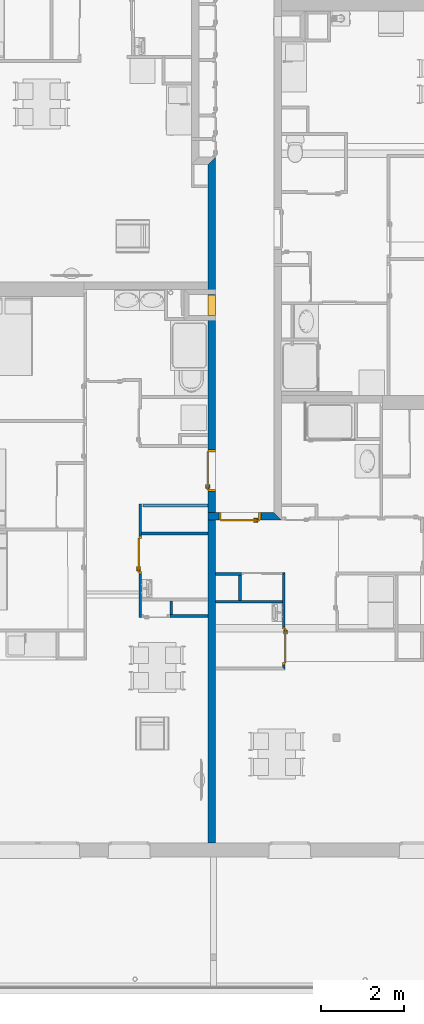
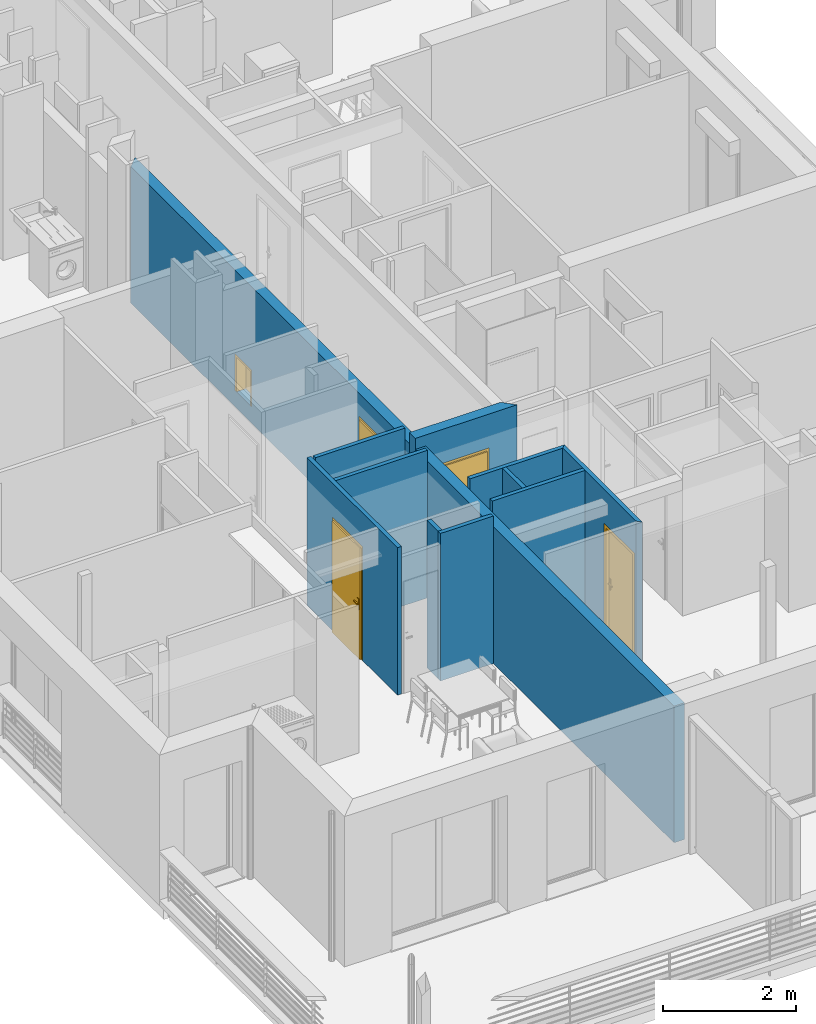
# One storey, part 31 of 171: 11 walls, 5 doors, 7 openings.
"""IFC2X3 building model written with IfcOpenShell, lengths in millimetres."""

import ifcopenshell
import ifcopenshell.guid

model = None  # the IFC model being written
_history = None  # IfcOwnerHistory: only IFC2X3 demands one
_inside = {}  # id of a spatial element -> (the spatial element, [elements in it])
_under = {}  # id of a project, library or spatial element -> (it, [spatial elements below it])
_declared = {}  # id of a project -> (the project, [libraries it declares])
_typed = {}  # id of a type object -> (the type object, [elements of that type])
_made_of = {}  # id of a material, layer set ... -> (it, [elements and type objects made of it])


def new_model(schema):
    """Start an empty IFC model of exactly this schema.

    Asked for "IFC4X3", IfcOpenShell would pick the latest addendum, in which some entities
    have other attributes; the version numbers below select the first issue.
    IFC2X3 requires an IfcOwnerHistory on every rooted entity: one is made here for all.
    """
    global model, _history
    if schema == "IFC4X3":
        model = ifcopenshell.file(schema_version=(4, 3, 0, 0))
    else:
        model = ifcopenshell.file(schema=schema)
    _inside.clear()
    _under.clear()
    _declared.clear()
    _typed.clear()
    _made_of.clear()
    _history = None
    if model.schema == "IFC2X3":
        org = make("IfcOrganization", Name="unknown")
        user = make(
            "IfcPersonAndOrganization",
            ThePerson=make("IfcPerson", FamilyName="unknown"),
            TheOrganization=org,
        )
        app = make(
            "IfcApplication",
            ApplicationDeveloper=org,
            Version="unknown",
            ApplicationFullName="unknown",
            ApplicationIdentifier="unknown",
        )
        _history = make(
            "IfcOwnerHistory",
            OwningUser=user,
            OwningApplication=app,
            ChangeAction="ADDED",
            CreationDate=0,
        )
    return model


def make(cls, **values):
    """One entity of the class cls with the attributes given. An attribute that is None is left unset."""
    return model.create_entity(
        cls, **{name: value for name, value in values.items() if value is not None}
    )


def entity(cls, *values):
    """Any entity or typed value of the class cls, its attributes in the order of the schema. None: left unset."""
    e = model.create_entity(cls)
    for i, value in enumerate(values):
        if value is not None:
            e[i] = value
    return e


def rooted(cls, **values):
    """An entity with a GlobalId (a new one), such as an element, a storey or a relation."""
    return make(cls, GlobalId=ifcopenshell.guid.new(), OwnerHistory=_history, **values)


def si_unit(unit_type, name, prefix=None):
    """IfcSIUnit, for example si_unit("LENGTHUNIT", "METRE", prefix="MILLI")."""
    return make("IfcSIUnit", UnitType=unit_type, Prefix=prefix, Name=name)


def converted_unit(unit_type, name, factor, base, dimensions=None, offset=None):
    """IfcConversionBasedUnit, such as the inch: factor (a typed value) times the base unit."""
    return make(
        "IfcConversionBasedUnit"
        if offset is None
        else "IfcConversionBasedUnitWithOffset",
        ConversionOffset=offset,
        Dimensions=None
        if dimensions is None
        else entity("IfcDimensionalExponents", *dimensions),
        UnitType=unit_type,
        Name=name,
        ConversionFactor=make(
            "IfcMeasureWithUnit", ValueComponent=factor, UnitComponent=base
        ),
    )


def derived_unit(unit_type, elements):
    """IfcDerivedUnit: a product of units, each with its exponent."""
    return make(
        "IfcDerivedUnit",
        Elements=[
            make("IfcDerivedUnitElement", Unit=unit, Exponent=power)
            for unit, power in elements
        ],
        UnitType=unit_type,
    )


def money_unit(currency):
    """IfcMonetaryUnit."""
    return make("IfcMonetaryUnit", Currency=currency)


def assignment(units):
    """IfcUnitAssignment: the units of a project."""
    return None if units is None else make("IfcUnitAssignment", Units=units)


def point(xyz):
    """IfcCartesianPoint."""
    return None if xyz is None else make("IfcCartesianPoint", Coordinates=xyz)


def direction(xyz):
    """IfcDirection."""
    return None if xyz is None else make("IfcDirection", DirectionRatios=xyz)


def frame(location, z_axis=None, x_axis=None):
    """IfcAxis2Placement3D, a coordinate frame: its origin and axes. An axis left out is left unset."""
    return make(
        "IfcAxis2Placement3D",
        Location=point(location),
        Axis=direction(z_axis),
        RefDirection=direction(x_axis),
    )


def frame_2d(location, x_axis=None):
    """IfcAxis2Placement2D, a coordinate frame in the plane: its origin and x axis."""
    return make(
        "IfcAxis2Placement2D", Location=point(location), RefDirection=direction(x_axis)
    )


def origin_with_axes():
    """The frame at (0, 0, 0) with the z axis (0, 0, 1) and the x axis (1, 0, 0) written out."""
    return frame((0.0, 0.0, 0.0), z_axis=(0.0, 0.0, 1.0), x_axis=(1.0, 0.0, 0.0))


def origin_2d_with_axis():
    """The frame at (0, 0) in the plane with the x axis (1, 0) written out."""
    return frame_2d((0.0, 0.0), x_axis=(1.0, 0.0))


def place(relative_to, where):
    """IfcLocalPlacement: puts the frame where relative to a parent placement (None: the world)."""
    return make(
        "IfcLocalPlacement", PlacementRelTo=relative_to, RelativePlacement=where
    )


def context(
    kind, dimensions, precision=None, world=None, true_north=None, identifier=None
):
    """IfcGeometricRepresentationContext, for example the 3D "Model" context."""
    return make(
        "IfcGeometricRepresentationContext",
        ContextIdentifier=identifier,
        ContextType=kind,
        CoordinateSpaceDimension=dimensions,
        Precision=precision,
        WorldCoordinateSystem=world,
        TrueNorth=true_north,
    )


def subcontext(parent, identifier, kind, view, scale=None):
    """IfcGeometricRepresentationSubContext, for example "Body" below "Model"."""
    return make(
        "IfcGeometricRepresentationSubContext",
        ContextIdentifier=identifier,
        ContextType=kind,
        ParentContext=parent,
        TargetScale=scale,
        TargetView=view,
    )


def project(units=None, contexts=None):
    """IfcProject with its units and contexts."""
    return rooted(
        "IfcProject",
        Name="project",
        RepresentationContexts=contexts,
        UnitsInContext=assignment(units),
    )


def spatial(cls, under=None, at=None, **own):
    """A site, building, storey or space (cls), placed at a placement, below another one or the project."""
    s = rooted(cls, ObjectPlacement=at, **own)
    if under is not None:
        _under.setdefault(under.id(), (under, []))[1].append(s)
    return s


def polyline(points):
    """IfcPolyline through the points."""
    return make("IfcPolyline", Points=[point(p) for p in points])


def profile(cls, at=None, kind="AREA", **sizes):
    """A parametric profile (cls). Its sizes go by their IFC names, for example OverallWidth=200.0."""
    return make(cls, ProfileType=kind, Position=at, **sizes)


def rectangle(**sizes):
    """IfcRectangleProfileDef."""
    return profile("IfcRectangleProfileDef", **sizes)


def outline(outer, holes=None, kind="AREA"):
    """IfcArbitraryClosedProfileDef: a profile drawn as a closed curve; with holes, ...WithVoids."""
    if holes is None:
        return make("IfcArbitraryClosedProfileDef", ProfileType=kind, OuterCurve=outer)
    return make(
        "IfcArbitraryProfileDefWithVoids",
        ProfileType=kind,
        OuterCurve=outer,
        InnerCurves=holes,
    )


def extrude(swept, where, along, depth):
    """IfcExtrudedAreaSolid: the profile swept, set in the frame where, extruded along a direction by depth."""
    return make(
        "IfcExtrudedAreaSolid",
        SweptArea=swept,
        Position=where,
        ExtrudedDirection=direction(along),
        Depth=depth,
    )


def faces_of(points, faces, orient=None, outer=None):
    """IfcFace entities. A face is a list of loops; a loop is a list of indices into points, from 0.

    orient and outer hold one flag for each loop. By default every Orientation is true, the
    first loop of a face is its IfcFaceOuterBound and the others are IfcFaceBound.
    """
    made = []
    for i, loops in enumerate(faces):
        bounds = []
        for j, loop in enumerate(loops):
            is_outer = j == 0 if outer is None else outer[i][j]
            bounds.append(
                make(
                    "IfcFaceOuterBound" if is_outer else "IfcFaceBound",
                    Bound=make("IfcPolyLoop", Polygon=[points[k] for k in loop]),
                    Orientation=True if orient is None else orient[i][j],
                )
            )
        made.append(make("IfcFace", Bounds=bounds))
    return made


def faceted_brep(points, faces, orient=None, outer=None, voids=None):
    """IfcFacetedBrep: a solid bounded by flat faces; with voids (closed shells), ...WithVoids."""
    shared = [point(p) for p in points]
    hull = make("IfcClosedShell", CfsFaces=faces_of(shared, faces, orient, outer))
    if voids is None:
        return make("IfcFacetedBrep", Outer=hull)
    return make(
        "IfcFacetedBrepWithVoids",
        Outer=hull,
        Voids=[
            make(cls, CfsFaces=faces_of(shared, fs, o, b)) for cls, fs, o, b in voids
        ],
    )


def shape(context_of_items, identifier, shape_type, items):
    """IfcShapeRepresentation: the items that make up one representation, for example the "Body"."""
    return make(
        "IfcShapeRepresentation",
        ContextOfItems=context_of_items,
        RepresentationIdentifier=identifier,
        RepresentationType=shape_type,
        Items=items,
    )


def source(mapping_origin, context_of_items, identifier, shape_type, items):
    """IfcRepresentationMap: a shape defined once, which mapped items show again and again."""
    return make(
        "IfcRepresentationMap",
        MappingOrigin=mapping_origin,
        MappedRepresentation=shape(context_of_items, identifier, shape_type, items),
    )


def transform(
    local_origin,
    x_axis=None,
    y_axis=None,
    z_axis=None,
    scale=None,
    scale2=None,
    scale3=None,
    uniform=True,
):
    """IfcCartesianTransformationOperator3D, or its non-uniform kind. x_axis, y_axis, z_axis: its Axis1, 2, 3."""
    if uniform:
        return make(
            "IfcCartesianTransformationOperator3D",
            Axis1=direction(x_axis),
            Axis2=direction(y_axis),
            LocalOrigin=point(local_origin),
            Scale=scale,
            Axis3=direction(z_axis),
        )
    return make(
        "IfcCartesianTransformationOperator3DnonUniform",
        Axis1=direction(x_axis),
        Axis2=direction(y_axis),
        LocalOrigin=point(local_origin),
        Scale=scale,
        Axis3=direction(z_axis),
        Scale2=scale2,
        Scale3=scale3,
    )


def mapped(mapping_source, mapping_target):
    """IfcMappedItem: shows the shape of a source again, moved by a transform."""
    return make(
        "IfcMappedItem", MappingSource=mapping_source, MappingTarget=mapping_target
    )


def material(Name=None, Category=None):
    """IfcMaterial."""
    return make("IfcMaterial", Name=Name, Category=Category)


def layer(
    of_material, thickness, ventilated=None, Name=None, Category=None, Priority=None
):
    """IfcMaterialLayer: one layer of a wall or slab, of a material (None: an air gap)."""
    return make(
        "IfcMaterialLayer",
        Material=of_material,
        LayerThickness=thickness,
        IsVentilated=ventilated,
        Name=Name,
        Category=Category,
        Priority=Priority,
    )


def layer_set(layers, Name=None):
    """IfcMaterialLayerSet."""
    return make("IfcMaterialLayerSet", MaterialLayers=layers, LayerSetName=Name)


def layer_usage(for_layer_set, set_direction, sense, offset, extent=None):
    """IfcMaterialLayerSetUsage: how a layer set lies in its element."""
    return make(
        "IfcMaterialLayerSetUsage",
        ForLayerSet=for_layer_set,
        LayerSetDirection=set_direction,
        DirectionSense=sense,
        OffsetFromReferenceLine=offset,
        ReferenceExtent=extent,
    )


def made_of(thing, what):
    """Note that an element or type object is made of a material, layer set ...; save() writes the relation."""
    if what is not None:
        _made_of.setdefault(what.id(), (what, []))[1].append(thing)
    return thing


def type_object(cls, material=None, **own):
    """A type object (cls), such as IfcWallType, which elements share."""
    return made_of(rooted(cls, **own), material)


def element(
    cls,
    number,
    at=None,
    inside=None,
    cuts=None,
    type_object=None,
    material=None,
    context=None,
    identifier="Body",
    shape_type=None,
    held_by="IfcProductDefinitionShape",
    body=None,
    shapes=None,
    **own,
):
    """One element of the class cls, such as IfcWall. Its Tag is "e" and its number.

    at: its placement. inside: the storey or other place that contains it. cuts: it is an
    opening in that element (IfcRelVoidsElement). A single representation is given by context,
    identifier, shape_type and body (its items); several are given by shapes. held_by: the class
    of the entity that holds the representations. save() writes the other relations.
    """
    e = rooted(cls, Tag="e%d" % number, ObjectPlacement=at, **own)
    if body is not None:
        shapes = [shape(context, identifier, shape_type, body)]
    if shapes is not None:
        e.Representation = make(held_by, Representations=shapes)
    if inside is not None:
        _inside.setdefault(inside.id(), (inside, []))[1].append(e)
    if cuts is not None:
        rooted(
            "IfcRelVoidsElement", RelatingBuildingElement=cuts, RelatedOpeningElement=e
        )
    if type_object is not None:
        _typed.setdefault(type_object.id(), (type_object, []))[1].append(e)
    return made_of(e, material)


def fill(opening, filler):
    """IfcRelFillsElement: the door or window that sits in an opening."""
    return rooted(
        "IfcRelFillsElement",
        RelatingOpeningElement=opening,
        RelatedBuildingElement=filler,
    )


def aggregate(whole, parts):
    """IfcRelAggregates: a whole, such as a stair, and the parts it consists of."""
    return rooted("IfcRelAggregates", RelatingObject=whole, RelatedObjects=parts)


def save(model, path):
    """Write the relations noted so far, then the file.

    IfcRelAggregates (storeys below a building ...), IfcRelContainedInSpatialStructure (elements
    in a storey), IfcRelDefinesByType, IfcRelAssociatesMaterial and IfcRelDeclares: one each for
    every whole, place, type object, material and project.
    """
    for whole, parts in _under.values():
        aggregate(whole, parts)
    for where, things in _inside.values():
        rooted(
            "IfcRelContainedInSpatialStructure",
            RelatedElements=things,
            RelatingStructure=where,
        )
    for kind, things in _typed.values():
        rooted("IfcRelDefinesByType", RelatedObjects=things, RelatingType=kind)
    for what, things in _made_of.values():
        rooted("IfcRelAssociatesMaterial", RelatedObjects=things, RelatingMaterial=what)
    for by, libraries in _declared.values():
        rooted("IfcRelDeclares", RelatingContext=by, RelatedDefinitions=libraries)
    model.write(path)


model = new_model("IFC2X3")

# Units and contexts
model_context = context("Model", 3, precision=0.01, world=origin_with_axes(), true_north=direction((0.0, 1.0)))
body_context = subcontext(model_context, "Body", "Model", "MODEL_VIEW")
ifc_project = project(units=[si_unit("LENGTHUNIT", "METRE", prefix="MILLI"), si_unit("AREAUNIT", "SQUARE_METRE"), si_unit("VOLUMEUNIT", "CUBIC_METRE"), converted_unit("PLANEANGLEUNIT", "DEGREE", entity("IfcPlaneAngleMeasure", 0.0174532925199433), si_unit("PLANEANGLEUNIT", "RADIAN"), dimensions=[0, 0, 0, 0, 0, 0, 0]), money_unit("USD"), converted_unit("TIMEUNIT", "Year", entity("IfcTimeMeasure", 31557600.0), si_unit("TIMEUNIT", "SECOND"), dimensions=[0, 0, 1, 0, 0, 0, 0]), si_unit("MASSUNIT", "GRAM", prefix="KILO"), si_unit("THERMODYNAMICTEMPERATUREUNIT", "DEGREE_CELSIUS"), si_unit("LUMINOUSINTENSITYUNIT", "LUMEN"), si_unit("ENERGYUNIT", "JOULE", prefix="MEGA"), derived_unit("THERMALCONDUCTANCEUNIT", [(si_unit("POWERUNIT", "WATT"), 1), (si_unit("LENGTHUNIT", "METRE"), -1), (si_unit("THERMODYNAMICTEMPERATUREUNIT", "KELVIN"), -1)]), derived_unit("SPECIFICHEATCAPACITYUNIT", [(si_unit("ENERGYUNIT", "JOULE"), 1), (si_unit("MASSUNIT", "GRAM", prefix="KILO"), -1), (si_unit("THERMODYNAMICTEMPERATUREUNIT", "KELVIN"), -1)]), derived_unit("MASSDENSITYUNIT", [(si_unit("MASSUNIT", "GRAM", prefix="KILO"), 1), (si_unit("VOLUMEUNIT", "CUBIC_METRE"), -1)])], contexts=[model_context])

# Site, building, storey
site_placement = place(None, origin_with_axes())
site = spatial("IfcSite", under=ifc_project, at=site_placement, Name="Site", CompositionType="ELEMENT")
building_placement = place(site_placement, origin_with_axes())
building = spatial("IfcBuilding", under=site, at=building_placement, Name="Bâtiment", CompositionType="ELEMENT")
storey_placement = place(building_placement, frame((0.0, 0.0, 3000.0), z_axis=(0.0, 0.0, 1.0), x_axis=(1.0, 0.0, 0.0)))
storey = spatial("IfcBuildingStorey", under=building, at=storey_placement, Name="rdc", CompositionType="ELEMENT", Elevation=3000.0)

# Wall, opening, door
ifc_material_1 = material(Name="Parpaing 314940890")
ifc_layer_1 = layer(ifc_material_1, 180.0, ventilated="UNKNOWN")
ifc_layer_set_1 = layer_set([ifc_layer_1], Name="Beton  18 0018356637")
ifc_layer_usage_1 = layer_usage(ifc_layer_set_1, "AXIS2", "NEGATIVE", 0.0)
wall_type_1 = type_object("IfcWallType", Name="Beton  18 0018356637 180", PredefinedType="NOTDEFINED")
wall_1_placement = place(storey_placement, frame((2224132.31805152, -649549.592209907, 0.0), z_axis=(0.0, 0.0, 1.0), x_axis=(0.9999999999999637, -2.695694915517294e-07, 0.0)))
wall_1 = element("IfcWallStandardCase", 1, at=wall_1_placement, inside=storey, type_object=wall_type_1, material=ifc_layer_usage_1, Name="Mur-142", context=body_context, shape_type="SweptSolid", body=[
    extrude(outline(polyline([(0.0, -180.0000000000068), (1760.000353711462, -180.0000000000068), (1580.00030518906, 0.0), (0.0, 0.0), (0.0, -180.0000000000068)])), origin_with_axes(), (0.0, 0.0, 1.0), 2700.0),
])
opening_1_placement = place(wall_1_placement, frame((767.6096216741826, 0.0, 0.0), z_axis=(0.0, 0.0, 1.0), x_axis=(1.0, 0.0, 0.0)))
opening_1 = element("IfcOpeningElement", 2, at=opening_1_placement, cuts=wall_1, Name="Por-299", context=body_context, shape_type="SweptSolid", body=[
    extrude(rectangle(XDim=1010.00001192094, YDim=2080.0, at=origin_2d_with_axis()), frame((-5.960373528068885e-06, 179.9999999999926, 1040.0), z_axis=(0.0, -1.0, 0.0), x_axis=(-1.0, 0.0, 0.0)), (0.0, 0.0, 1.0), 360.0),
])
door_style = type_object("IfcDoorStyle", Name="Porte_1v", ConstructionType="NOTDEFINED", OperationType="NOTDEFINED", ParameterTakesPrecedence=False, Sizeable=False)
shared_shape_1 = source(origin_with_axes(), body_context, "Body", "Brep", [
    faceted_brep([(504.9999999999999, 0.0, 0.0), (464.9999999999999, 0.0, 0.0), (464.9999999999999, 0.0, 2040.0), (-464.9999999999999, 0.0, 2040.0), (-464.9999999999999, 0.0, 0.0), (-504.9999999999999, 0.0, 0.0), (-504.9999999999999, 0.0, 2080.0), (504.9999999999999, 0.0, 2080.0), (504.9999999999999, -180.0, 0.0), (449.9999999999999, -180.0, 0.0), (449.9999999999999, -15.0, 0.0), (464.9999999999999, -15.0, 0.0), (464.9999999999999, -15.0, 2040.0), (-464.9999999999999, -15.0, 2040.0), (-464.9999999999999, -15.0, 0.0), (-449.9999999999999, -15.0, 0.0), (-449.9999999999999, -180.0, 0.0), (-504.9999999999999, -180.0, 0.0), (-504.9999999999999, -180.0, 2080.0), (504.9999999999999, -180.0, 2080.0), (-449.9999999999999, -180.0, 2025.0), (449.9999999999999, -180.0, 2025.0), (449.9999999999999, -15.0, 2025.0), (-449.9999999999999, -15.0, 2025.0)], [[[0, 1, 2, 3, 4, 5, 6, 7]], [[0, 8, 9, 10, 11, 1]], [[1, 11, 12, 2]], [[2, 12, 13, 3]], [[3, 13, 14, 4]], [[5, 4, 14, 15, 16, 17]], [[18, 6, 5, 17]], [[19, 7, 6, 18]], [[8, 0, 7, 19]], [[9, 8, 19, 18, 17, 16, 20, 21]], [[10, 9, 21, 22]], [[11, 10, 22, 23, 15, 14, 13, 12]], [[23, 20, 16, 15]], [[22, 21, 20, 23]]]),
    faceted_brep([(-399.9999999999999, -15.0, 900.0), (-439.9999999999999, -15.0, 900.0), (-439.9999999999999, -15.0, 1100.0), (-399.9999999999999, -15.0, 1100.0), (-399.9999999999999, -25.0, 900.0), (-439.9999999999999, -25.0, 900.0), (-439.9999999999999, -25.0, 1100.0), (-399.9999999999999, -25.0, 1100.0)], [[[0, 1, 2, 3]], [[1, 0, 4, 5]], [[2, 1, 5, 6]], [[3, 2, 6, 7]], [[0, 3, 7, 4]], [[5, 4, 7, 6]]]),
    faceted_brep([(-329.9999999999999, -25.0, 1000.0), (-429.9999999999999, -25.0, 1000.0), (-429.9999999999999, -25.0, 1020.0), (-329.9999999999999, -25.0, 1020.0), (-329.9999999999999, -44.99999999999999, 1000.0), (-429.9999999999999, -44.99999999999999, 1000.0), (-429.9999999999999, -44.99999999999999, 1020.0), (-329.9999999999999, -44.99999999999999, 1020.0)], [[[0, 1, 2, 3]], [[1, 0, 4, 5]], [[2, 1, 5, 6]], [[3, 2, 6, 7]], [[0, 3, 7, 4]], [[5, 4, 7, 6]]]),
    faceted_brep([(-399.9999999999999, 34.99999999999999, 900.0), (-439.9999999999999, 34.99999999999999, 900.0), (-439.9999999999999, 34.99999999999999, 1100.0), (-399.9999999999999, 34.99999999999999, 1100.0), (-399.9999999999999, 25.0, 900.0), (-439.9999999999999, 25.0, 900.0), (-439.9999999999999, 25.0, 1100.0), (-399.9999999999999, 25.0, 1100.0)], [[[0, 1, 2, 3]], [[1, 0, 4, 5]], [[2, 1, 5, 6]], [[3, 2, 6, 7]], [[0, 3, 7, 4]], [[5, 4, 7, 6]]]),
    faceted_brep([(-329.9999999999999, 55.0, 1000.0), (-429.9999999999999, 55.0, 1000.0), (-429.9999999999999, 55.0, 1020.0), (-329.9999999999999, 55.0, 1020.0), (-329.9999999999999, 34.99999999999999, 1000.0), (-429.9999999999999, 34.99999999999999, 1000.0), (-429.9999999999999, 34.99999999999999, 1020.0), (-329.9999999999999, 34.99999999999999, 1020.0)], [[[0, 1, 2, 3]], [[1, 0, 4, 5]], [[2, 1, 5, 6]], [[3, 2, 6, 7]], [[0, 3, 7, 4]], [[5, 4, 7, 6]]]),
    faceted_brep([(-464.9999999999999, 25.0, 0.0), (464.9999999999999, 25.0, 0.0), (464.9999999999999, -15.0, 0.0), (-464.9999999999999, -15.0, 0.0), (-464.9999999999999, 25.0, 2040.0), (464.9999999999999, 25.0, 2040.0), (464.9999999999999, -15.0, 2040.0), (-464.9999999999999, -15.0, 2040.0)], [[[0, 1, 2, 3]], [[0, 4, 5, 1]], [[1, 5, 6, 2]], [[3, 2, 6, 7]], [[4, 0, 3, 7]], [[5, 4, 7, 6]]]),
])
door_1_placement = place(opening_1_placement, frame((465.0000000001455, 0.0, 0.0), z_axis=(0.0, 0.0, 1.0), x_axis=(-1.0, 0.0, 0.0)))
door_1 = element("IfcDoor", 3, at=door_1_placement, inside=storey, type_object=door_style, Name="Por-299", OverallHeight=2040.0, OverallWidth=930.0, context=body_context, shape_type="MappedRepresentation", body=[
    mapped(shared_shape_1, transform((465.0000000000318, 180.0000000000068, 0.0))),
])
fill(opening_1, door_1)

# Wall, openings, doors
ifc_layer_usage_2 = layer_usage(ifc_layer_set_1, "AXIS2", "NEGATIVE", 0.0)
wall_2_placement = place(storey_placement, frame((2224312.398868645, -641196.7399761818, 0.0), z_axis=(0.0, 0.0, 1.0), x_axis=(-4.843818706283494e-06, -0.9999999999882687, 0.0)))
wall_2 = element("IfcWallStandardCase", 4, at=wall_2_placement, inside=storey, type_object=wall_type_1, material=ifc_layer_usage_2, Name="Mur-143", context=body_context, shape_type="SweptSolid", body=[
    extrude(outline(polyline([(0.0004215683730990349, -179.99999999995), (16281.58397286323, -179.99999999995), (16281.58310097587, 0.0), (-180.0000000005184, 0.0), (0.0004215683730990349, -179.99999999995)])), origin_with_axes(), (0.0, 0.0, 1.0), 2500.0),
])
opening_2_placement = place(wall_2_placement, frame((7346.789733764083, -2.273736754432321e-10, 0.0), z_axis=(0.0, 0.0, 1.0), x_axis=(1.0, 0.0, 0.0)))
opening_2 = element("IfcOpeningElement", 5, at=opening_2_placement, cuts=wall_2, Name="Por-299", context=body_context, shape_type="SweptSolid", body=[
    extrude(rectangle(XDim=1010.00001192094, YDim=2080.0, at=origin_2d_with_axis()), frame((-5.960487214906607e-06, 180.0000000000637, 1040.0), z_axis=(0.0, -1.0, 0.0), x_axis=(-1.0, 0.0, 0.0)), (0.0, 0.0, 1.0), 360.0),
])
opening_3_placement = place(wall_2_placement, frame((3375.691315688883, -1.13686837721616e-10, 299.9999999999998), z_axis=(0.0, 0.0, 1.0), x_axis=(1.0, 0.0, 0.0)))
opening_3 = element("IfcOpeningElement", 6, at=opening_3_placement, cuts=wall_2, Name="Por-234", context=body_context, shape_type="SweptSolid", body=[
    extrude(rectangle(XDim=489.9999985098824, YDim=669.9999999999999, at=origin_2d_with_axis()), frame((-7.450466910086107e-07, -180.0000000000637, 334.9999999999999), z_axis=(0.0, 1.0, 0.0), x_axis=(1.0, 0.0, 0.0)), (0.0, 0.0, 1.0), 360.0),
])
door_2_placement = place(opening_2_placement, frame((464.9999999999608, -1.13686837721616e-10, 0.0), z_axis=(0.0, 0.0, 1.0), x_axis=(-1.0, 0.0, 0.0)))
door_2 = element("IfcDoor", 7, at=door_2_placement, inside=storey, type_object=door_style, Name="Por-299", OverallHeight=2040.0, OverallWidth=930.0, context=body_context, shape_type="MappedRepresentation", body=[
    mapped(shared_shape_1, transform((465.0000000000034, 179.99999999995, 0.0))),
])
fill(opening_2, door_2)
shared_shape_2 = source(origin_with_axes(), body_context, "Body", "Brep", [
    faceted_brep([(245.0, 0.0, 0.0), (225.0, 0.0, 0.0), (225.0, 0.0, 650.0), (-225.0, 0.0, 650.0), (-225.0, 0.0, 0.0), (-245.0, 0.0, 0.0), (-245.0, 0.0, 670.0), (245.0, 0.0, 670.0), (245.0, -180.0, 0.0), (210.0, -180.0, 0.0), (210.0, -15.0, 0.0), (225.0, -15.0, 0.0), (225.0, -15.0, 650.0), (-225.0, -15.0, 650.0), (-225.0, -15.0, 0.0), (-210.0, -15.0, 0.0), (-210.0, -180.0, 0.0), (-245.0, -180.0, 0.0), (-245.0, -180.0, 670.0), (245.0, -180.0, 670.0), (-210.0, -180.0, 635.0), (210.0, -180.0, 635.0), (210.0, -15.0, 635.0), (-210.0, -15.0, 635.0)], [[[0, 1, 2, 3, 4, 5, 6, 7]], [[0, 8, 9, 10, 11, 1]], [[1, 11, 12, 2]], [[2, 12, 13, 3]], [[3, 13, 14, 4]], [[5, 4, 14, 15, 16, 17]], [[18, 6, 5, 17]], [[19, 7, 6, 18]], [[8, 0, 7, 19]], [[9, 8, 19, 18, 17, 16, 20, 21]], [[10, 9, 21, 22]], [[11, 10, 22, 23, 15, 14, 13, 12]], [[23, 20, 16, 15]], [[22, 21, 20, 23]]]),
    faceted_brep([(-225.0, 5.000000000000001, 0.0), (225.0, 5.000000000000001, 0.0), (225.0, -15.0, 0.0), (-225.0, -15.0, 0.0), (-225.0, 5.000000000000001, 650.0), (225.0, 5.000000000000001, 650.0), (225.0, -15.0, 650.0), (-225.0, -15.0, 650.0)], [[[0, 1, 2, 3]], [[0, 4, 5, 1]], [[1, 5, 6, 2]], [[3, 2, 6, 7]], [[4, 0, 3, 7]], [[5, 4, 7, 6]]]),
])
door_3_placement = place(opening_3_placement, frame((-225.0000000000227, -1.13686837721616e-10, 0.0), z_axis=(0.0, 0.0, 1.0), x_axis=(1.0, 0.0, 0.0)))
door_3 = element("IfcDoor", 8, at=door_3_placement, inside=storey, type_object=door_style, Name="Por-234", OverallHeight=650.0, OverallWidth=450.0, context=body_context, shape_type="MappedRepresentation", body=[
    mapped(shared_shape_2, transform((225.0000000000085, 0.0, 0.0))),
])
fill(opening_3, door_3)

# Walls
ifc_material_2 = material(Name="Hachure solide 268963992")
ifc_layer_2 = layer(ifc_material_2, 70.0, ventilated="UNKNOWN")
ifc_layer_set_2 = layer_set([ifc_layer_2], Name="Cloison 70 0826278243")
ifc_layer_usage_3 = layer_usage(ifc_layer_set_2, "AXIS2", "NEGATIVE", 70.0)
wall_type_2 = type_object("IfcWallType", Name="Cloison 70 0826278243 70", PredefinedType="NOTDEFINED")
wall_3_placement = place(storey_placement, frame((2224312.351120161, -651724.3517134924, 0.0), z_axis=(0.0, 0.0, 1.0), x_axis=(1.0, 0.0, 0.0)))
element("IfcWallStandardCase", 9, at=wall_3_placement, inside=storey, type_object=wall_type_2, material=ifc_layer_usage_3, Name="Mur-149", context=body_context, shape_type="SweptSolid", body=[
    extrude(outline(polyline([(-0.003245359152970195, 0.0), (1604.471851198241, 0.0), (1604.471851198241, 69.99999999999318), (-0.002906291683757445, 69.99999999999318), (-0.003245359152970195, 0.0)])), origin_with_axes(), (0.0, 0.0, 1.0), 2700.0),
])
ifc_layer_usage_4 = layer_usage(ifc_layer_set_2, "AXIS2", "NEGATIVE", 70.0)
wall_4_placement = place(storey_placement, frame((2224312.34658077, -651998.3834312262, 0.0), z_axis=(0.0, 0.0, 1.0), x_axis=(-1.0, 0.0, 0.0)))
element("IfcWallStandardCase", 10, at=wall_4_placement, inside=storey, type_object=wall_type_2, material=ifc_layer_usage_4, Name="Mur-149", context=body_context, shape_type="SweptSolid", body=[
    extrude(outline(polyline([(180.0000333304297, 0.0), (1096.672255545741, 0.0), (1096.672255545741, 69.99999999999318), (180.0003723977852, 69.99999999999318), (180.0000333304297, 0.0)])), origin_with_axes(), (0.0, 0.0, 1.0), 2700.0),
])
ifc_layer_usage_5 = layer_usage(ifc_layer_set_2, "AXIS2", "NEGATIVE", 70.0)
wall_5_placement = place(storey_placement, frame((2224312.356138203, -650018.3834312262, 0.0), z_axis=(0.0, 0.0, 1.0), x_axis=(-1.0, 0.0, 0.0)))
element("IfcWallStandardCase", 11, at=wall_5_placement, inside=storey, type_object=wall_type_2, material=ifc_layer_usage_5, Name="Mur-149", context=body_context, shape_type="SweptSolid", body=[
    extrude(outline(polyline([(180.0000000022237, 0.0), (1770.00501620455, 0.0), (1770.00501620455, 69.99999999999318), (180.0003390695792, 69.99999999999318), (180.0000000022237, 0.0)])), origin_with_axes(), (0.0, 0.0, 1.0), 2700.0),
])

# Wall, opening, door
ifc_layer_usage_6 = layer_usage(ifc_layer_set_2, "AXIS2", "NEGATIVE", 70.0)
wall_6_placement = place(storey_placement, frame((2222472.351121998, -649348.3834312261, 0.0), z_axis=(0.0, 0.0, 1.0), x_axis=(0.0, -1.0, 0.0)))
wall_6 = element("IfcWallStandardCase", 12, at=wall_6_placement, inside=storey, type_object=wall_type_2, material=ifc_layer_usage_6, Name="Mur-149", context=body_context, shape_type="SweptSolid", body=[
    extrude(outline(polyline([(0.0, 0.0), (2720.000000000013, 0.0), (2720.000000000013, 70.00000000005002), (0.0, 70.00000000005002), (0.0, 0.0)])), origin_with_axes(), (0.0, 0.0, 1.0), 2700.0),
])
opening_4_placement = place(wall_6_placement, frame((1220.422727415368, -1.13686837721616e-10, 0.0), z_axis=(0.0, 0.0, 1.0), x_axis=(1.0, 0.0, 0.0)))
opening_4 = element("IfcOpeningElement", 13, at=opening_4_placement, cuts=wall_6, Name="Por-283", context=body_context, shape_type="SweptSolid", body=[
    extrude(rectangle(XDim=910.0, YDim=2080.0, at=origin_2d_with_axis()), frame((0.0, 70.00000000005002, 1040.0), z_axis=(0.0, -1.0, 0.0), x_axis=(-1.0, 0.0, 0.0)), (0.0, 0.0, 1.0), 140.0),
])
shared_shape_3 = source(origin_with_axes(), body_context, "Body", "Brep", [
    faceted_brep([(454.9999999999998, 0.0, 0.0), (414.9999999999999, 0.0, 0.0), (414.9999999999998, 0.0, 2040.0), (-414.9999999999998, 0.0, 2040.0), (-414.9999999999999, 0.0, 0.0), (-454.9999999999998, 0.0, 0.0), (-454.9999999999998, 0.0, 2080.0), (454.9999999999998, 0.0, 2080.0), (454.9999999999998, -69.99999999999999, 0.0), (399.9999999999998, -69.99999999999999, 0.0), (399.9999999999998, -15.0, 0.0), (414.9999999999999, -15.0, 0.0), (414.9999999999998, -15.0, 2040.0), (-414.9999999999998, -15.0, 2040.0), (-414.9999999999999, -15.0, 0.0), (-399.9999999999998, -15.0, 0.0), (-399.9999999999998, -69.99999999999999, 0.0), (-454.9999999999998, -69.99999999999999, 0.0), (-454.9999999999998, -69.99999999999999, 2080.0), (454.9999999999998, -69.99999999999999, 2080.0), (-399.9999999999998, -69.99999999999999, 2025.0), (399.9999999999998, -69.99999999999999, 2025.0), (399.9999999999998, -15.0, 2025.0), (-399.9999999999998, -15.0, 2025.0)], [[[0, 1, 2, 3, 4, 5, 6, 7]], [[0, 8, 9, 10, 11, 1]], [[1, 11, 12, 2]], [[2, 12, 13, 3]], [[3, 13, 14, 4]], [[5, 4, 14, 15, 16, 17]], [[18, 6, 5, 17]], [[19, 7, 6, 18]], [[8, 0, 7, 19]], [[9, 8, 19, 18, 17, 16, 20, 21]], [[10, 9, 21, 22]], [[11, 10, 22, 23, 15, 14, 13, 12]], [[23, 20, 16, 15]], [[22, 21, 20, 23]]]),
    faceted_brep([(-349.9999999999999, -15.0, 900.0), (-389.9999999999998, -15.0, 900.0), (-389.9999999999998, -15.0, 1100.0), (-349.9999999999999, -15.0, 1100.0), (-349.9999999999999, -24.99999999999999, 900.0), (-389.9999999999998, -24.99999999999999, 900.0), (-389.9999999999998, -24.99999999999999, 1100.0), (-349.9999999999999, -24.99999999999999, 1100.0)], [[[0, 1, 2, 3]], [[1, 0, 4, 5]], [[2, 1, 5, 6]], [[3, 2, 6, 7]], [[0, 3, 7, 4]], [[5, 4, 7, 6]]]),
    faceted_brep([(-279.9999999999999, -24.99999999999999, 1000.0), (-379.9999999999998, -24.99999999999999, 1000.0), (-379.9999999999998, -24.99999999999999, 1020.0), (-279.9999999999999, -24.99999999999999, 1020.0), (-279.9999999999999, -44.99999999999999, 1000.0), (-379.9999999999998, -44.99999999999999, 1000.0), (-379.9999999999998, -44.99999999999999, 1020.0), (-279.9999999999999, -44.99999999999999, 1020.0)], [[[0, 1, 2, 3]], [[1, 0, 4, 5]], [[2, 1, 5, 6]], [[3, 2, 6, 7]], [[0, 3, 7, 4]], [[5, 4, 7, 6]]]),
    faceted_brep([(-349.9999999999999, 34.99999999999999, 900.0), (-389.9999999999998, 34.99999999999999, 900.0), (-389.9999999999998, 34.99999999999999, 1100.0), (-349.9999999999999, 34.99999999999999, 1100.0), (-349.9999999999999, 24.99999999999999, 900.0), (-389.9999999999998, 24.99999999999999, 900.0), (-389.9999999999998, 24.99999999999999, 1100.0), (-349.9999999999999, 24.99999999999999, 1100.0)], [[[0, 1, 2, 3]], [[1, 0, 4, 5]], [[2, 1, 5, 6]], [[3, 2, 6, 7]], [[0, 3, 7, 4]], [[5, 4, 7, 6]]]),
    faceted_brep([(-279.9999999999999, 54.99999999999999, 1000.0), (-379.9999999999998, 54.99999999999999, 1000.0), (-379.9999999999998, 54.99999999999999, 1020.0), (-279.9999999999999, 54.99999999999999, 1020.0), (-279.9999999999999, 34.99999999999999, 1000.0), (-379.9999999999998, 34.99999999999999, 1000.0), (-379.9999999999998, 34.99999999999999, 1020.0), (-279.9999999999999, 34.99999999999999, 1020.0)], [[[0, 1, 2, 3]], [[1, 0, 4, 5]], [[2, 1, 5, 6]], [[3, 2, 6, 7]], [[0, 3, 7, 4]], [[5, 4, 7, 6]]]),
    faceted_brep([(-414.9999999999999, 24.99999999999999, 0.0), (414.9999999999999, 24.99999999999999, 0.0), (414.9999999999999, -15.0, 0.0), (-414.9999999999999, -15.0, 0.0), (-414.9999999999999, 24.99999999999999, 2040.0), (414.9999999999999, 24.99999999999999, 2040.0), (414.9999999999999, -15.0, 2040.0), (-414.9999999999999, -15.0, 2040.0)], [[[0, 1, 2, 3]], [[0, 4, 5, 1]], [[1, 5, 6, 2]], [[3, 2, 6, 7]], [[4, 0, 3, 7]], [[5, 4, 7, 6]]]),
])
door_4_placement = place(opening_4_placement, frame((415.0000000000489, -1.13686837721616e-10, 0.0), z_axis=(0.0, 0.0, 1.0), x_axis=(-1.0, 0.0, 0.0)))
door_4 = element("IfcDoor", 14, at=door_4_placement, inside=storey, type_object=door_style, Name="Por-283", OverallHeight=2040.0, OverallWidth=830.0, context=body_context, shape_type="MappedRepresentation", body=[
    mapped(shared_shape_3, transform((415.0000000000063, 0.0, 0.0))),
])
fill(opening_4, door_4)

# Wall
ifc_layer_usage_7 = layer_usage(ifc_layer_set_2, "AXIS2", "POSITIVE", -70.0)
wall_7_placement = place(storey_placement, frame((2223215.674325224, -651998.3834312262, 0.0), z_axis=(0.0, 0.0, 1.0), x_axis=(0.0, 1.0, 0.0)))
element("IfcWallStandardCase", 15, at=wall_7_placement, inside=storey, type_object=wall_type_2, material=ifc_layer_usage_7, Name="Mur-149", context=body_context, shape_type="SweptSolid", body=[
    extrude(outline(polyline([(0.0, -70.00000000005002), (330.0000000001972, -70.00000000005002), (330.0000000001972, 0.0), (0.0, 0.0), (0.0, -70.00000000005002)])), origin_with_axes(), (0.0, 0.0, 1.0), 2700.0),
])

# Wall, opening
ifc_layer_usage_8 = layer_usage(ifc_layer_set_2, "AXIS2", "NEGATIVE", 70.0)
wall_8_placement = place(storey_placement, frame((2224132.318310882, -649348.3834312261, 0.0), z_axis=(0.0, 0.0, 1.0), x_axis=(-1.0, 0.0, 0.0)))
wall_8 = element("IfcWallStandardCase", 16, at=wall_8_placement, inside=storey, type_object=wall_type_2, material=ifc_layer_usage_8, Name="Mur-149", context=body_context, shape_type="SweptSolid", body=[
    extrude(outline(polyline([(0.0, 0.0), (1549.967188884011, 0.0), (1549.967188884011, 69.99999999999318), (0.0, 69.99999999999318), (0.0, 0.0)])), origin_with_axes(), (0.0, 0.0, 1.0), 2700.0),
])
opening_5_placement = place(wall_8_placement, frame((794.9835944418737, 0.0, 0.0), z_axis=(0.0, 0.0, 1.0), x_axis=(1.0, 0.0, 0.0)))
element("IfcOpeningElement", 17, at=opening_5_placement, cuts=wall_8, Name="Por-321", context=body_context, shape_type="SweptSolid", body=[
    extrude(rectangle(XDim=1589.967188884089, YDim=2000.0, at=origin_2d_with_axis()), frame((0.0, 0.0, 1000.0), z_axis=(0.0, 1.0, 0.0), x_axis=(1.0, 0.0, 0.0)), (0.0, 0.0, -1.0), 70.0),
    extrude(rectangle(XDim=1589.967188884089, YDim=2000.0, at=origin_2d_with_axis()), frame((0.0, 0.0, 1000.0), z_axis=(0.0, -1.0, 0.0), x_axis=(1.0, 0.0, 0.0)), (0.0, 0.0, -1.0), 70.0),
])

# Wall, opening, door
ifc_layer_usage_9 = layer_usage(ifc_layer_set_2, "AXIS2", "POSITIVE", -70.0)
wall_9_placement = place(storey_placement, frame((2225916.822971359, -653324.3517134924, 0.0), z_axis=(0.0, 0.0, 1.0), x_axis=(0.0, 1.0, 0.0)))
wall_9 = element("IfcWallStandardCase", 18, at=wall_9_placement, inside=storey, type_object=wall_type_2, material=ifc_layer_usage_9, Name="Mur-149", context=body_context, shape_type="SweptSolid", body=[
    extrude(outline(polyline([(0.0, -70.00000000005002), (2339.999999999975, -70.00000000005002), (2269.999999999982, 0.0), (69.99999999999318, 0.0), (0.0, -70.00000000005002)])), origin_with_axes(), (0.0, 0.0, 1.0), 2700.0),
])
opening_6_placement = place(wall_9_placement, frame((574.7403760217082, -4.547473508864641e-10, 0.0), z_axis=(0.0, 0.0, 1.0), x_axis=(1.0, 0.0, 0.0)))
opening_6 = element("IfcOpeningElement", 19, at=opening_6_placement, cuts=wall_9, Name="Por-280", context=body_context, shape_type="SweptSolid", body=[
    extrude(rectangle(XDim=910.0, YDim=2080.0, at=origin_2d_with_axis()), frame((0.0, 70.00000000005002, 1040.0), z_axis=(0.0, -1.0, 0.0), x_axis=(-1.0, 0.0, 0.0)), (0.0, 0.0, 1.0), 140.0),
])
shared_shape_4 = source(origin_with_axes(), body_context, "Body", "Brep", [
    faceted_brep([(455.0, 0.0, 0.0), (415.0000000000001, 0.0, 0.0), (415.0000000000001, 0.0, 2040.0), (-415.0000000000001, 0.0, 2040.0), (-415.0000000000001, 0.0, 0.0), (-455.0, 0.0, 0.0), (-455.0, 0.0, 2080.0), (455.0, 0.0, 2080.0), (455.0, -70.0, 0.0), (400.0, -70.0, 0.0), (400.0, -15.0, 0.0), (415.0000000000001, -15.0, 0.0), (415.0000000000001, -15.0, 2040.0), (-415.0000000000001, -15.0, 2040.0), (-415.0000000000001, -15.0, 0.0), (-400.0, -15.0, 0.0), (-400.0, -70.0, 0.0), (-455.0, -70.0, 0.0), (-455.0, -70.0, 2080.0), (455.0, -70.0, 2080.0), (-400.0, -70.0, 2025.0), (400.0, -70.0, 2025.0), (400.0, -15.0, 2025.0), (-400.0, -15.0, 2025.0)], [[[0, 1, 2, 3, 4, 5, 6, 7]], [[0, 8, 9, 10, 11, 1]], [[1, 11, 12, 2]], [[2, 12, 13, 3]], [[3, 13, 14, 4]], [[5, 4, 14, 15, 16, 17]], [[18, 6, 5, 17]], [[19, 7, 6, 18]], [[8, 0, 7, 19]], [[9, 8, 19, 18, 17, 16, 20, 21]], [[10, 9, 21, 22]], [[11, 10, 22, 23, 15, 14, 13, 12]], [[23, 20, 16, 15]], [[22, 21, 20, 23]]]),
    faceted_brep([(-350.0000000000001, -15.0, 900.0), (-390.0, -15.0, 900.0), (-390.0, -15.0, 1100.0), (-350.0000000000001, -15.0, 1100.0), (-350.0000000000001, -25.0, 900.0), (-390.0, -25.0, 900.0), (-390.0, -25.0, 1100.0), (-350.0000000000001, -25.0, 1100.0)], [[[0, 1, 2, 3]], [[1, 0, 4, 5]], [[2, 1, 5, 6]], [[3, 2, 6, 7]], [[0, 3, 7, 4]], [[5, 4, 7, 6]]]),
    faceted_brep([(-280.0, -25.0, 1000.0), (-380.0, -25.0, 1000.0), (-380.0, -25.0, 1020.0), (-280.0, -25.0, 1020.0), (-280.0, -45.0, 1000.0), (-380.0, -45.0, 1000.0), (-380.0, -45.0, 1020.0), (-280.0, -45.0, 1020.0)], [[[0, 1, 2, 3]], [[1, 0, 4, 5]], [[2, 1, 5, 6]], [[3, 2, 6, 7]], [[0, 3, 7, 4]], [[5, 4, 7, 6]]]),
    faceted_brep([(-350.0000000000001, 35.0, 900.0), (-390.0, 35.0, 900.0), (-390.0, 35.0, 1100.0), (-350.0000000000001, 35.0, 1100.0), (-350.0000000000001, 25.0, 900.0), (-390.0, 25.0, 900.0), (-390.0, 25.0, 1100.0), (-350.0000000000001, 25.0, 1100.0)], [[[0, 1, 2, 3]], [[1, 0, 4, 5]], [[2, 1, 5, 6]], [[3, 2, 6, 7]], [[0, 3, 7, 4]], [[5, 4, 7, 6]]]),
    faceted_brep([(-280.0, 55.00000000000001, 1000.0), (-380.0, 55.00000000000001, 1000.0), (-380.0, 55.00000000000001, 1020.0), (-280.0, 55.00000000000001, 1020.0), (-280.0, 35.0, 1000.0), (-380.0, 35.0, 1000.0), (-380.0, 35.0, 1020.0), (-280.0, 35.0, 1020.0)], [[[0, 1, 2, 3]], [[1, 0, 4, 5]], [[2, 1, 5, 6]], [[3, 2, 6, 7]], [[0, 3, 7, 4]], [[5, 4, 7, 6]]]),
    faceted_brep([(-415.0000000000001, 25.0, 0.0), (415.0000000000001, 25.0, 0.0), (415.0000000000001, -15.0, 0.0), (-415.0000000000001, -15.0, 0.0), (-415.0000000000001, 25.0, 2040.0), (415.0000000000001, 25.0, 2040.0), (415.0000000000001, -15.0, 2040.0), (-415.0000000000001, -15.0, 2040.0)], [[[0, 1, 2, 3]], [[0, 4, 5, 1]], [[1, 5, 6, 2]], [[3, 2, 6, 7]], [[4, 0, 3, 7]], [[5, 4, 7, 6]]]),
])
door_5_placement = place(opening_6_placement, frame((414.9999999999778, 0.0, 0.0), z_axis=(0.0, 0.0, 1.0), x_axis=(-1.0, 0.0, 0.0)))
door_5 = element("IfcDoor", 20, at=door_5_placement, inside=storey, type_object=door_style, Name="Por-280", OverallHeight=2040.0, OverallWidth=830.0, context=body_context, shape_type="MappedRepresentation", body=[
    mapped(shared_shape_4, transform((415.0000000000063, 70.00000000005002, 0.0))),
])
fill(opening_6, door_5)

# Wall, opening
ifc_layer_usage_10 = layer_usage(ifc_layer_set_2, "AXIS2", "NEGATIVE", 70.0)
wall_10_placement = place(storey_placement, frame((2224312.35112016, -651054.3517134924, 0.0), z_axis=(0.0, 0.0, 1.0), x_axis=(1.0, 0.0, 0.0)))
wall_10 = element("IfcWallStandardCase", 21, at=wall_10_placement, inside=storey, type_object=wall_type_2, material=ifc_layer_usage_10, Name="Mur-149", context=body_context, shape_type="SweptSolid", body=[
    extrude(outline(polyline([(-1.13686837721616e-10, 0.0), (1604.471851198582, 0.0), (1674.471851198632, 69.99999999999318), (0.0003390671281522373, 69.99999999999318), (-1.13686837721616e-10, 0.0)])), origin_with_axes(), (0.0, 0.0, 1.0), 2700.0),
])
opening_7_placement = place(wall_10_placement, frame((1116.438783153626, 0.0, 0.0), z_axis=(0.0, 0.0, 1.0), x_axis=(1.0, 0.0, 0.0)))
element("IfcOpeningElement", 22, at=opening_7_placement, cuts=wall_10, Name="Por-325", context=body_context, shape_type="SweptSolid", body=[
    extrude(rectangle(XDim=976.0661360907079, YDim=2000.0, at=origin_2d_with_axis()), frame((0.0, 70.00000000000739, 1000.0), z_axis=(0.0, -1.0, 0.0), x_axis=(1.0, 0.0, 0.0)), (0.0, 0.0, -1.0), 70.0),
    extrude(rectangle(XDim=976.0661360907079, YDim=2000.0, at=origin_2d_with_axis()), frame((0.0, 70.00000000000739, 1000.0), z_axis=(0.0, 1.0, 0.0), x_axis=(1.0, 0.0, 0.0)), (0.0, 0.0, -1.0), 70.0),
])

# Wall
ifc_layer_usage_11 = layer_usage(ifc_layer_set_2, "AXIS2", "NEGATIVE", 70.0)
wall_11_placement = place(storey_placement, frame((2224940.756835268, -651724.3517134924, 0.0), z_axis=(0.0, 0.0, 1.0), x_axis=(0.0, 1.0, 0.0)))
element("IfcWallStandardCase", 23, at=wall_11_placement, inside=storey, type_object=wall_type_2, material=ifc_layer_usage_11, Name="Mur-149", context=body_context, shape_type="SweptSolid", body=[
    extrude(outline(polyline([(69.99999999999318, 0.0), (669.9999999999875, 0.0), (669.9999999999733, 70.00000000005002), (69.99999999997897, 70.00000000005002), (69.99999999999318, 0.0)])), origin_with_axes(), (0.0, 0.0, 1.0), 2700.0),
])

save(model, "model.ifc")
